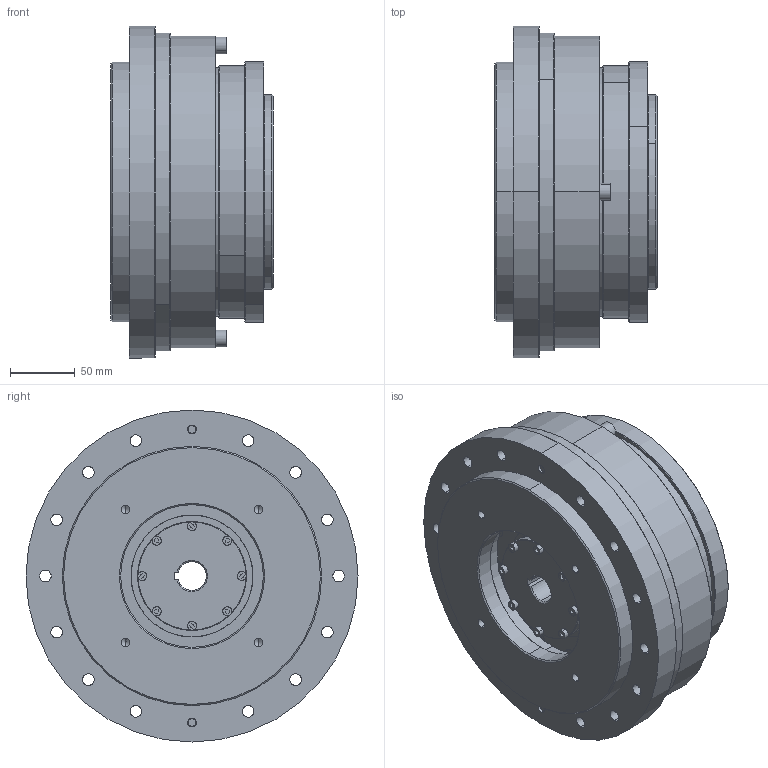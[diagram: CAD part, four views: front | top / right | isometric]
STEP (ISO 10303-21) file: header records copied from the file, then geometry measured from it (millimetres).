
FILE_DESCRIPTION (( 'STEP AP214' ), '1' );
FILE_NAME ('LHSG-58-XXX-RDP-22-58-110-145-M8.step', '2022-08-03T03:59:11', ( 'Sysceo.com' ), ( '' ), 'SwSTEP 2.0', 'SolidWorks 2020', '' );
FILE_SCHEMA (( 'AUTOMOTIVE_DESIGN' ));
Length unit declared in the file: millimetre
Products named in the file (1): LHSG-58-XXX-RDP-22-58-110-145-M8
Bounding box: 125 x 256 x 256 mm (x, y, z)
Volume: 3374321.5 mm3; surface area: 989320.3 mm2
Topology: 115 solids, 115 shells, 2668 faces, 6250 edges, 3662 vertices
Faces by surface type: cylinder 867, plane 861, cone 526, sphere 216, torus 198
Entity records: 104128 total; most frequent: DIRECTION 14106, CARTESIAN_POINT 12317, ORIENTED_EDGE 11556, EDGE_CURVE 5778, AXIS2_PLACEMENT_3D 5759, VERTEX_POINT 3570, EDGE_LOOP 3236, CIRCLE 3090
